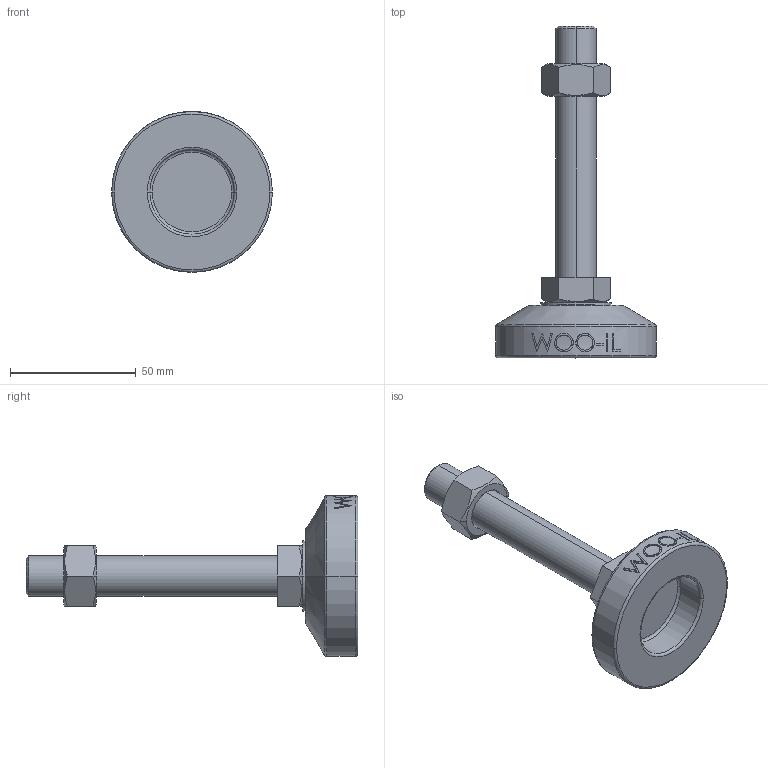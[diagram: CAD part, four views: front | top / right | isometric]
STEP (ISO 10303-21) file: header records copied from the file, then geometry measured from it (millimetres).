
FILE_DESCRIPTION (( 'STEP AP214' ), '1' );
FILE_NAME ('MFZ64-M16-100.step', '2021-01-15T07:06:02', ( '' ), ( '' ), 'SwSTEP 2.0', 'SolidWorks 2019', '' );
FILE_SCHEMA (( 'AUTOMOTIVE_DESIGN' ));
Length unit declared in the file: millimetre
Products named in the file (2): MFZ64-M16-100
Bounding box: 64 x 132 x 64 mm (x, y, z)
Volume: 76497.8 mm3; surface area: 19623.2 mm2
Topology: 3 solids, 3 shells, 106 faces, 243 edges, 154 vertices
Faces by surface type: plane 48, cylinder 18, bspline 16, cone 14, torus 10
Entity records: 4520 total; most frequent: CARTESIAN_POINT 2177, ORIENTED_EDGE 486, DIRECTION 439, EDGE_CURVE 243, AXIS2_PLACEMENT_3D 170, VERTEX_POINT 154, EDGE_LOOP 119, ADVANCED_FACE 106
